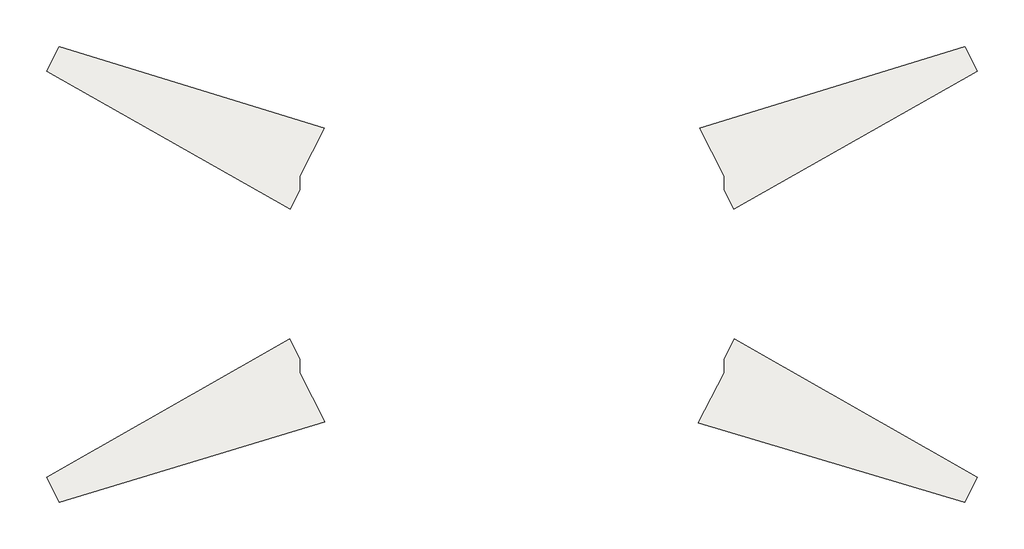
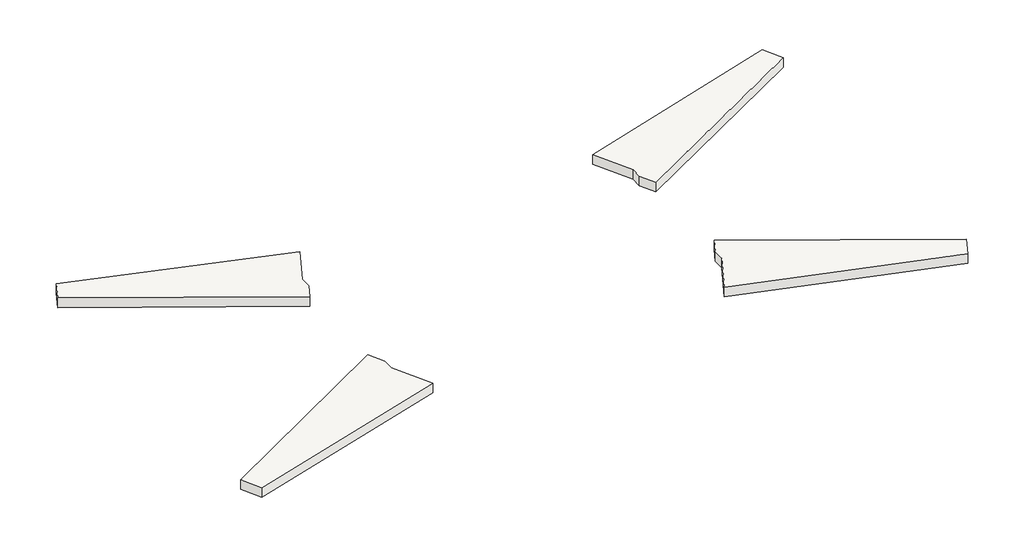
# One storey, incomplete: 4 slabs.
"""IFC4 building model written with IfcOpenShell, lengths in millimetres."""

import ifcopenshell
import ifcopenshell.guid

model = None  # the IFC model being written
_history = None  # IfcOwnerHistory: only IFC2X3 demands one
_inside = {}  # id of a spatial element -> (the spatial element, [elements in it])
_under = {}  # id of a project, library or spatial element -> (it, [spatial elements below it])
_declared = {}  # id of a project -> (the project, [libraries it declares])
_typed = {}  # id of a type object -> (the type object, [elements of that type])
_made_of = {}  # id of a material, layer set ... -> (it, [elements and type objects made of it])


def new_model(schema):
    """Start an empty IFC model of exactly this schema.

    Asked for "IFC4X3", IfcOpenShell would pick the latest addendum, in which some entities
    have other attributes; the version numbers below select the first issue.
    IFC2X3 requires an IfcOwnerHistory on every rooted entity: one is made here for all.
    """
    global model, _history
    if schema == "IFC4X3":
        model = ifcopenshell.file(schema_version=(4, 3, 0, 0))
    else:
        model = ifcopenshell.file(schema=schema)
    _inside.clear()
    _under.clear()
    _declared.clear()
    _typed.clear()
    _made_of.clear()
    _history = None
    if model.schema == "IFC2X3":
        org = make("IfcOrganization", Name="unknown")
        user = make(
            "IfcPersonAndOrganization",
            ThePerson=make("IfcPerson", FamilyName="unknown"),
            TheOrganization=org,
        )
        app = make(
            "IfcApplication",
            ApplicationDeveloper=org,
            Version="unknown",
            ApplicationFullName="unknown",
            ApplicationIdentifier="unknown",
        )
        _history = make(
            "IfcOwnerHistory",
            OwningUser=user,
            OwningApplication=app,
            ChangeAction="ADDED",
            CreationDate=0,
        )
    return model


def make(cls, **values):
    """One entity of the class cls with the attributes given. An attribute that is None is left unset."""
    return model.create_entity(
        cls, **{name: value for name, value in values.items() if value is not None}
    )


def rooted(cls, **values):
    """An entity with a GlobalId (a new one), such as an element, a storey or a relation."""
    return make(cls, GlobalId=ifcopenshell.guid.new(), OwnerHistory=_history, **values)


def si_unit(unit_type, name, prefix=None):
    """IfcSIUnit, for example si_unit("LENGTHUNIT", "METRE", prefix="MILLI")."""
    return make("IfcSIUnit", UnitType=unit_type, Prefix=prefix, Name=name)


def assignment(units):
    """IfcUnitAssignment: the units of a project."""
    return None if units is None else make("IfcUnitAssignment", Units=units)


def point(xyz):
    """IfcCartesianPoint."""
    return None if xyz is None else make("IfcCartesianPoint", Coordinates=xyz)


def direction(xyz):
    """IfcDirection."""
    return None if xyz is None else make("IfcDirection", DirectionRatios=xyz)


def frame(location, z_axis=None, x_axis=None):
    """IfcAxis2Placement3D, a coordinate frame: its origin and axes. An axis left out is left unset."""
    return make(
        "IfcAxis2Placement3D",
        Location=point(location),
        Axis=direction(z_axis),
        RefDirection=direction(x_axis),
    )


def origin():
    """The frame at (0, 0, 0) with its axes left unset."""
    return frame((0.0, 0.0, 0.0))


def origin_with_axes():
    """The frame at (0, 0, 0) with the z axis (0, 0, 1) and the x axis (1, 0, 0) written out."""
    return frame((0.0, 0.0, 0.0), z_axis=(0.0, 0.0, 1.0), x_axis=(1.0, 0.0, 0.0))


def place(relative_to, where):
    """IfcLocalPlacement: puts the frame where relative to a parent placement (None: the world)."""
    return make(
        "IfcLocalPlacement", PlacementRelTo=relative_to, RelativePlacement=where
    )


def context(
    kind, dimensions, precision=None, world=None, true_north=None, identifier=None
):
    """IfcGeometricRepresentationContext, for example the 3D "Model" context."""
    return make(
        "IfcGeometricRepresentationContext",
        ContextIdentifier=identifier,
        ContextType=kind,
        CoordinateSpaceDimension=dimensions,
        Precision=precision,
        WorldCoordinateSystem=world,
        TrueNorth=true_north,
    )


def project(units=None, contexts=None):
    """IfcProject with its units and contexts."""
    return rooted(
        "IfcProject",
        Name="project",
        RepresentationContexts=contexts,
        UnitsInContext=assignment(units),
    )


def spatial(cls, under=None, at=None, **own):
    """A site, building, storey or space (cls), placed at a placement, below another one or the project."""
    s = rooted(cls, ObjectPlacement=at, **own)
    if under is not None:
        _under.setdefault(under.id(), (under, []))[1].append(s)
    return s


def polyline(points):
    """IfcPolyline through the points."""
    return make("IfcPolyline", Points=[point(p) for p in points])


def outline(outer, holes=None, kind="AREA"):
    """IfcArbitraryClosedProfileDef: a profile drawn as a closed curve; with holes, ...WithVoids."""
    if holes is None:
        return make("IfcArbitraryClosedProfileDef", ProfileType=kind, OuterCurve=outer)
    return make(
        "IfcArbitraryProfileDefWithVoids",
        ProfileType=kind,
        OuterCurve=outer,
        InnerCurves=holes,
    )


def extrude(swept, where, along, depth):
    """IfcExtrudedAreaSolid: the profile swept, set in the frame where, extruded along a direction by depth."""
    return make(
        "IfcExtrudedAreaSolid",
        SweptArea=swept,
        Position=where,
        ExtrudedDirection=direction(along),
        Depth=depth,
    )


def shape(context_of_items, identifier, shape_type, items):
    """IfcShapeRepresentation: the items that make up one representation, for example the "Body"."""
    return make(
        "IfcShapeRepresentation",
        ContextOfItems=context_of_items,
        RepresentationIdentifier=identifier,
        RepresentationType=shape_type,
        Items=items,
    )


def made_of(thing, what):
    """Note that an element or type object is made of a material, layer set ...; save() writes the relation."""
    if what is not None:
        _made_of.setdefault(what.id(), (what, []))[1].append(thing)
    return thing


def element(
    cls,
    number,
    at=None,
    inside=None,
    cuts=None,
    type_object=None,
    material=None,
    context=None,
    identifier="Body",
    shape_type=None,
    held_by="IfcProductDefinitionShape",
    body=None,
    shapes=None,
    **own,
):
    """One element of the class cls, such as IfcWall. Its Tag is "e" and its number.

    at: its placement. inside: the storey or other place that contains it. cuts: it is an
    opening in that element (IfcRelVoidsElement). A single representation is given by context,
    identifier, shape_type and body (its items); several are given by shapes. held_by: the class
    of the entity that holds the representations. save() writes the other relations.
    """
    e = rooted(cls, Tag="e%d" % number, ObjectPlacement=at, **own)
    if body is not None:
        shapes = [shape(context, identifier, shape_type, body)]
    if shapes is not None:
        e.Representation = make(held_by, Representations=shapes)
    if inside is not None:
        _inside.setdefault(inside.id(), (inside, []))[1].append(e)
    if cuts is not None:
        rooted(
            "IfcRelVoidsElement", RelatingBuildingElement=cuts, RelatedOpeningElement=e
        )
    if type_object is not None:
        _typed.setdefault(type_object.id(), (type_object, []))[1].append(e)
    return made_of(e, material)


def aggregate(whole, parts):
    """IfcRelAggregates: a whole, such as a stair, and the parts it consists of."""
    return rooted("IfcRelAggregates", RelatingObject=whole, RelatedObjects=parts)


def save(model, path):
    """Write the relations noted so far, then the file.

    IfcRelAggregates (storeys below a building ...), IfcRelContainedInSpatialStructure (elements
    in a storey), IfcRelDefinesByType, IfcRelAssociatesMaterial and IfcRelDeclares: one each for
    every whole, place, type object, material and project.
    """
    for whole, parts in _under.values():
        aggregate(whole, parts)
    for where, things in _inside.values():
        rooted(
            "IfcRelContainedInSpatialStructure",
            RelatedElements=things,
            RelatingStructure=where,
        )
    for kind, things in _typed.values():
        rooted("IfcRelDefinesByType", RelatedObjects=things, RelatingType=kind)
    for what, things in _made_of.values():
        rooted("IfcRelAssociatesMaterial", RelatedObjects=things, RelatingMaterial=what)
    for by, libraries in _declared.values():
        rooted("IfcRelDeclares", RelatingContext=by, RelatedDefinitions=libraries)
    model.write(path)


model = new_model("IFC4")

# Units and contexts
model_context = context("Model", 3, world=origin())
ifc_project = project(units=[si_unit("LENGTHUNIT", "METRE", prefix="MILLI")], contexts=[model_context])

# Site, building, storey
site = spatial("IfcSite", under=ifc_project)
building = spatial("IfcBuilding", under=site)
storey = spatial("IfcBuildingStorey", under=building, Name="Niveau bas murs en aile", Elevation=700.0)

# Slabs
placement = place(None, origin())
element("IfcSlab", 1, ObjectType="Fondation M1", at=placement, inside=storey, context=model_context, shape_type="SweptSolid", body=[
    extrude(outline(polyline([(-11731.7910596, 5807.2697098), (-11731.7910596, 5058.9642912), (-12253.0879392, 4035.8615588), (-25323.0919764, 11424.8733538), (-24642.1062267, 12761.38314), (-10426.0623844, 8369.9065252), (-11731.7910596, 5807.2697098)])), origin_with_axes(), (0.0, 0.0, 1.0), 700.0),
])
element("IfcSlab", 2, ObjectType="Fondation M2", at=placement, inside=storey, context=model_context, shape_type="SweptSolid", body=[
    extrude(outline(polyline([(-25326.7408637, -10374.2809777), (-12279.4363488, -2940.7189162), (-11736.0635891, -4007.1480027), (-11736.0635891, -4768.2183626), (-10390.9775259, -7408.0984009), (-24645.755114, -11710.7907641), (-25326.7408637, -10374.2809777)])), origin_with_axes(), (0.0, 0.0, 1.0), 700.0),
])
element("IfcSlab", 3, ObjectType="Fondation M3", at=placement, inside=storey, context=model_context, shape_type="SweptSolid", body=[
    extrude(outline(polyline([(24621.3003331, 11424.3181007), (11551.7882582, 4035.557033), (11029.6903698, 5060.2318337), (11029.6903698, 5812.1686242), (9722.1977305, 8378.2674139), (23940.3145835, 12760.827887), (24621.3003331, 11424.3181007)])), origin_with_axes(), (0.0, 0.0, 1.0), 700.0),
])
element("IfcSlab", 4, ObjectType="Fondation M4", at=placement, inside=storey, context=model_context, shape_type="SweptSolid", body=[
    extrude(outline(polyline([(23936.8878417, -11711.5166213), (9652.5543427, -7462.5002069), (11026.4838013, -4766.0118175), (11026.4838013, -4011.0118175), (11571.272401, -2941.8039885), (24617.8735913, -10375.006835), (23936.8878417, -11711.5166213)])), origin_with_axes(), (0.0, 0.0, 1.0), 700.0),
])

save(model, "model.ifc")
